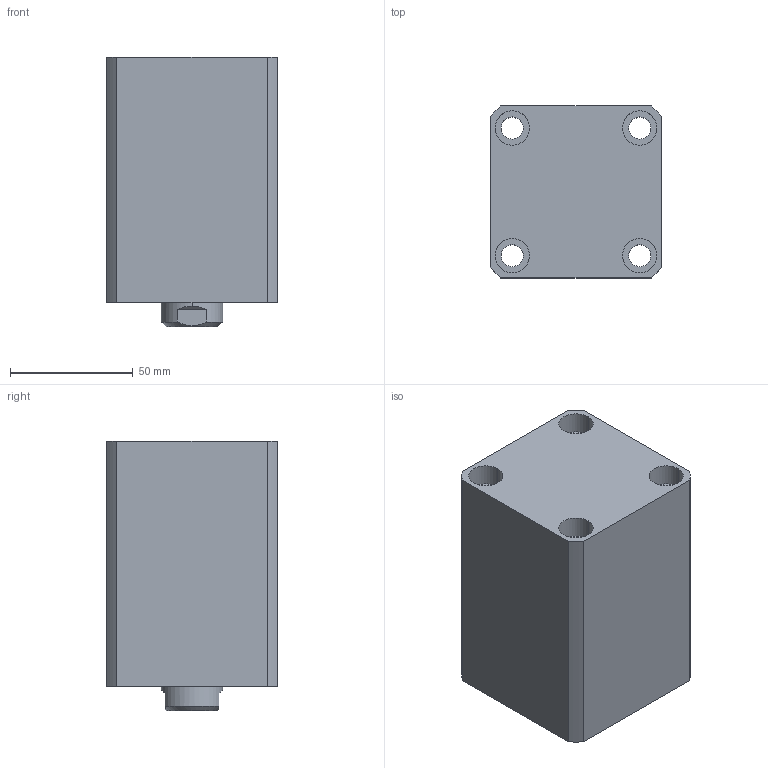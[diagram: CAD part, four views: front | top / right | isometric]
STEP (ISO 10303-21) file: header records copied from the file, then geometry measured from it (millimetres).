
FILE_DESCRIPTION (( 'STEP AP214' ), '1' );
FILE_NAME ('chtb-sd40x45n_asm.STEP', '2018-06-07T07:49:00', ( 'Windows' ), ( 'Microsoft' ), 'SwSTEP 2.0', 'SolidWorks 2015', '' );
FILE_SCHEMA (( 'AUTOMOTIVE_DESIGN' ));
Length unit declared in the file: millimetre
Products named in the file (4): CHTB-SD40QG; CHTB-SD40X45NHSG; CHTB-SD40X45NBT; chtb-sd40x45n_asm
Assembly tree (3 placements, depth 2):
  chtb-sd40x45n_asm
    CHTB-SD40X45NBT
    CHTB-SD40X45NHSG
    CHTB-SD40QG
Bounding box: 70 x 70 x 110 mm (x, y, z)
Volume: 412317.9 mm3; surface area: 85666.8 mm2
Topology: 3 solids, 3 shells, 157 faces, 401 edges, 266 vertices
Faces by surface type: cylinder 80, plane 36, torus 14, bspline 14, cone 13
Entity records: 9977 total; most frequent: CARTESIAN_POINT 6053, ORIENTED_EDGE 790, DIRECTION 768, EDGE_CURVE 395, AXIS2_PLACEMENT_3D 328, VERTEX_POINT 266, EDGE_LOOP 193, CIRCLE 179
